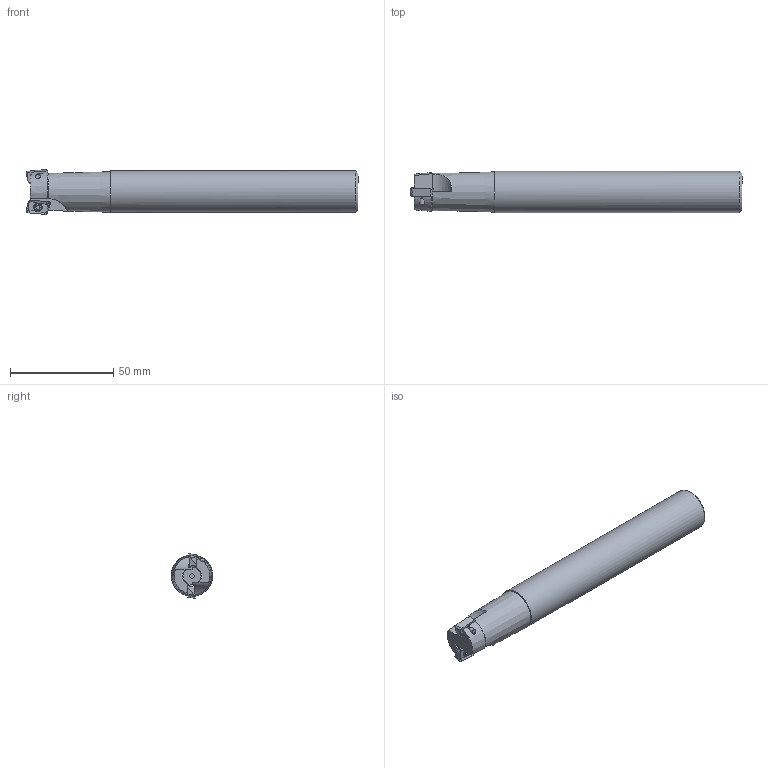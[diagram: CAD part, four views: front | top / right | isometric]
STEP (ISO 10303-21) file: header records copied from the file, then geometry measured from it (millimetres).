
FILE_DESCRIPTION(/* description */ (''),/* implementation_level */ '2;1');
FILE_NAME(/* name */ 'Z:\Проектный отдел\Алена\BAP300R 20 2TC20 160\BAP300R 20 2TC20 160.stp',/* time_stamp */ '2023-10-13T16:33:33+03:00',/* author */ ('User'),/* organization */ (''),/* preprocessor_version */ 'ST-DEVELOPER v18',/* originating_system */ 'Autodesk Inventor 2020',/* authorisation */ '');
FILE_SCHEMA (('AUTOMOTIVE_DESIGN { 1 0 10303 214 3 1 1 }'));
Length unit declared in the file: millimetre
Products named in the file (4): Сборка1; Деталь1; Напайка; Болтик
Assembly tree (5 placements, depth 2):
  Сборка1
    Деталь1
    Напайка  x2
    Болтик  x2
Bounding box: 160.91 x 20 x 21.78 mm (x, y, z)
Volume: 47385.2 mm3; surface area: 11041 mm2
Topology: 5 solids, 5 shells, 120 faces, 327 edges, 218 vertices
Faces by surface type: plane 44, bspline 32, cylinder 30, cone 14
Full cylindrical faces by diameter (mm): 2.22 x1, 2.3 x4, 2.5 x2, 3.5 x2, 20 x1
Entity records: 3094 total; most frequent: CARTESIAN_POINT 989, ORIENTED_EDGE 416, DIRECTION 406, EDGE_CURVE 208, AXIS2_PLACEMENT_3D 165, VERTEX_POINT 139, CIRCLE 86, EDGE_LOOP 83
